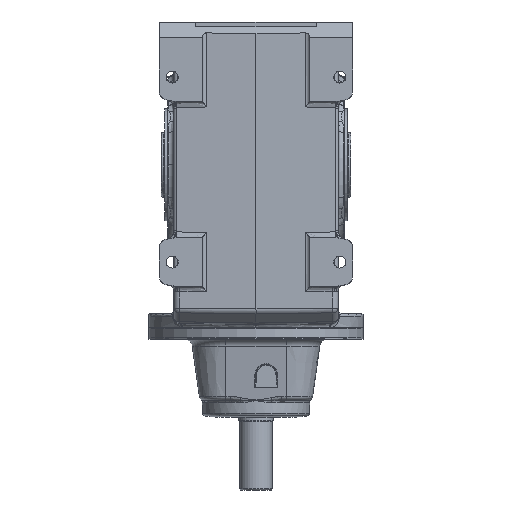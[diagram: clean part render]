
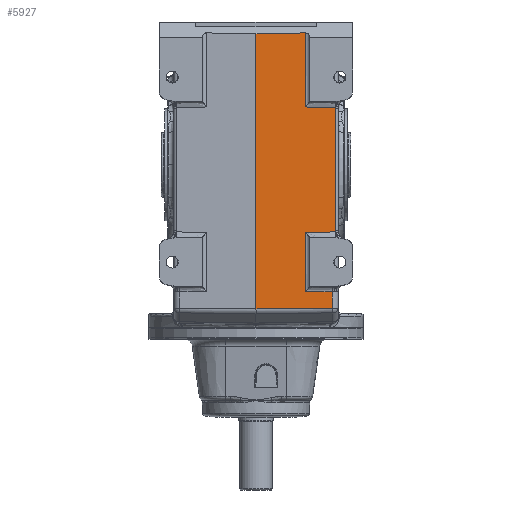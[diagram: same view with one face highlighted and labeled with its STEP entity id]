
A CAD part, front view. The second image highlights one B-rep face of the part: STEP entity #5927.
In plain terms, the highlighted planar face has unit normal (0.018, -1, 0) as drawn and (0, -1, 0.017) by its records, which use the part's own axes.
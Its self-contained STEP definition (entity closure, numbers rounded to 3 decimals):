
#281 = CARTESIAN_POINT ( 'NONE',  ( 78.081, -211.05, 92.636 ) ) ;
#1533 = AXIS2_PLACEMENT_3D ( 'NONE', #16848, #8998, #77013 ) ;
#1664 = VERTEX_POINT ( 'NONE', #95282 ) ;
#1910 = VECTOR ( 'NONE', #58422, 1000. ) ;
#3039 = CARTESIAN_POINT ( 'NONE',  ( 167.581, -212.667, 0. ) ) ;
#4416 = CARTESIAN_POINT ( 'NONE',  ( -160., -211.665, 57.413 ) ) ;
#4873 = ORIENTED_EDGE ( 'NONE', *, *, #46569, .F. ) ;
#5186 = CARTESIAN_POINT ( 'NONE',  ( 166.879, -211.12, 88.622 ) ) ;
#5461 = ORIENTED_EDGE ( 'NONE', *, *, #34428, .T. ) ;
#5652 = CARTESIAN_POINT ( 'NONE',  ( 166.804, -210.955, 98.088 ) ) ;
#5927 = ADVANCED_FACE ( 'NONE', ( #9481 ), #62697, .T. ) ;
#7214 = CARTESIAN_POINT ( 'NONE',  ( 76.611, -211.051, 92.552 ) ) ;
#8332 = DIRECTION ( 'NONE',  ( -1., 0., 0. ) ) ;
#8559 = EDGE_CURVE ( 'NONE', #26102, #67056, #45987, .T. ) ;
#8998 = DIRECTION ( 'NONE',  ( 0., -1., 0.017 ) ) ;
#9481 = FACE_OUTER_BOUND ( 'NONE', #84754, .T. ) ;
#9614 = VERTEX_POINT ( 'NONE', #85783 ) ;
#11019 = CARTESIAN_POINT ( 'NONE',  ( 147.595, -211.484, 67.745 ) ) ;
#11023 = DIRECTION ( 'NONE',  ( 1., 0., 0. ) ) ;
#12621 = B_SPLINE_CURVE_WITH_KNOTS ( 'NONE', 3,
 ( #44151, #36253, #31191, #68665 ),
 .UNSPECIFIED., .F., .F.,
 ( 4, 4 ),
 ( 0., 1. ),
 .UNSPECIFIED. ) ;
#14441 = CARTESIAN_POINT ( 'NONE',  ( -153.335, -211.665, 57.413 ) ) ;
#15211 = CARTESIAN_POINT ( 'NONE',  ( -160., -211.051, 92.552 ) ) ;
#16848 = CARTESIAN_POINT ( 'NONE',  ( -160., -211., 95.5 ) ) ;
#17679 = EDGE_CURVE ( 'NONE', #1664, #77894, #63121, .T. ) ;
#17922 = CARTESIAN_POINT ( 'NONE',  ( -160., -211.12, 88.622 ) ) ;
#18347 = VERTEX_POINT ( 'NONE', #3039 ) ;
#18399 = CARTESIAN_POINT ( 'NONE',  ( 147.557, -211.665, 57.413 ) ) ;
#19502 = VECTOR ( 'NONE', #8332, 1000. ) ;
#21701 = VECTOR ( 'NONE', #11023, 1000. ) ;
#25333 = ORIENTED_EDGE ( 'NONE', *, *, #56470, .T. ) ;
#26102 = VERTEX_POINT ( 'NONE', #89022 ) ;
#26290 = LINE ( 'NONE', #17922, #21701 ) ;
#27633 = B_SPLINE_CURVE_WITH_KNOTS ( 'NONE', 3,
 ( #51393, #90850, #89367, #67154 ),
 .UNSPECIFIED., .F., .F.,
 ( 4, 4 ),
 ( 0., 1. ),
 .UNSPECIFIED. ) ;
#29309 = CARTESIAN_POINT ( 'NONE',  ( -152.333, -212.667, 0. ) ) ;
#29596 = ORIENTED_EDGE ( 'NONE', *, *, #58925, .T. ) ;
#29835 = CARTESIAN_POINT ( 'NONE',  ( 76.611, -211.051, 92.552 ) ) ;
#29870 = CARTESIAN_POINT ( 'NONE',  ( 77.594, -211.051, 92.58 ) ) ;
#30632 = CARTESIAN_POINT ( 'NONE',  ( 78.203, -211.665, 57.413 ) ) ;
#31168 = EDGE_CURVE ( 'NONE', #39765, #18347, #81095, .T. ) ;
#31191 = CARTESIAN_POINT ( 'NONE',  ( -67.153, -211.462, 69.05 ) ) ;
#32053 = VECTOR ( 'NONE', #74121, 1000. ) ;
#34428 = EDGE_CURVE ( 'NONE', #48786, #26102, #88956, .T. ) ;
#34481 = DIRECTION ( 'NONE',  ( 1., 0., 0. ) ) ;
#35153 = EDGE_CURVE ( 'NONE', #83979, #40392, #90698, .T. ) ;
#35449 = CARTESIAN_POINT ( 'NONE',  ( -160., -212.667, 0. ) ) ;
#35830 = ORIENTED_EDGE ( 'NONE', *, *, #52874, .F. ) ;
#36253 = CARTESIAN_POINT ( 'NONE',  ( -67.113, -211.257, 80.791 ) ) ;
#37534 = CARTESIAN_POINT ( 'NONE',  ( 78.081, -211.05, 92.636 ) ) ;
#37558 = VERTEX_POINT ( 'NONE', #93835 ) ;
#38737 = ORIENTED_EDGE ( 'NONE', *, *, #17679, .T. ) ;
#38985 = CARTESIAN_POINT ( 'NONE',  ( 78.113, -211.257, 80.791 ) ) ;
#39765 = VERTEX_POINT ( 'NONE', #5186 ) ;
#40392 = VERTEX_POINT ( 'NONE', #46215 ) ;
#44151 = CARTESIAN_POINT ( 'NONE',  ( -67.081, -211.05, 92.636 ) ) ;
#45987 = LINE ( 'NONE', #14441, #72480 ) ;
#46215 = CARTESIAN_POINT ( 'NONE',  ( -65.611, -211.051, 92.552 ) ) ;
#46569 = EDGE_CURVE ( 'NONE', #94613, #39765, #26290, .T. ) ;
#48502 = CARTESIAN_POINT ( 'NONE',  ( 147.647, -211.12, 88.622 ) ) ;
#48786 = VERTEX_POINT ( 'NONE', #93584 ) ;
#50985 = CARTESIAN_POINT ( 'NONE',  ( -160., -211.665, 57.413 ) ) ;
#51331 = EDGE_CURVE ( 'NONE', #67056, #18347, #58140, .T. ) ;
#51393 = CARTESIAN_POINT ( 'NONE',  ( -67.081, -211.05, 92.636 ) ) ;
#52874 = EDGE_CURVE ( 'NONE', #83979, #9614, #72768, .T. ) ;
#54774 = CARTESIAN_POINT ( 'NONE',  ( 78.153, -211.462, 69.05 ) ) ;
#56470 = EDGE_CURVE ( 'NONE', #77894, #9614, #78900, .T. ) ;
#58140 = LINE ( 'NONE', #35449, #88150 ) ;
#58422 = DIRECTION ( 'NONE',  ( 0.008, -0.017, -1. ) ) ;
#58925 = EDGE_CURVE ( 'NONE', #94613, #1664, #79748, .T. ) ;
#60964 = EDGE_CURVE ( 'NONE', #37558, #48786, #12621, .T. ) ;
#61063 = ORIENTED_EDGE ( 'NONE', *, *, #31168, .F. ) ;
#61896 = ORIENTED_EDGE ( 'NONE', *, *, #35153, .T. ) ;
#62653 = ORIENTED_EDGE ( 'NONE', *, *, #8559, .T. ) ;
#62697 = PLANE ( 'NONE',  #1533 ) ;
#63121 = LINE ( 'NONE', #4416, #69030 ) ;
#66538 = ORIENTED_EDGE ( 'NONE', *, *, #72296, .F. ) ;
#67056 = VERTEX_POINT ( 'NONE', #29309 ) ;
#67154 = CARTESIAN_POINT ( 'NONE',  ( -65.611, -211.051, 92.552 ) ) ;
#68665 = CARTESIAN_POINT ( 'NONE',  ( -67.203, -211.665, 57.413 ) ) ;
#69030 = VECTOR ( 'NONE', #87755, 1000. ) ;
#72296 = EDGE_CURVE ( 'NONE', #37558, #40392, #27633, .T. ) ;
#72480 = VECTOR ( 'NONE', #82974, 1000. ) ;
#72768 = B_SPLINE_CURVE_WITH_KNOTS ( 'NONE', 3,
 ( #7214, #97461, #29870, #281 ),
 .UNSPECIFIED., .F., .F.,
 ( 4, 4 ),
 ( 0., 1. ),
 .UNSPECIFIED. ) ;
#74121 = DIRECTION ( 'NONE',  ( -1., 0., 0. ) ) ;
#77013 = DIRECTION ( 'NONE',  ( 0., -0.017, -1. ) ) ;
#77894 = VERTEX_POINT ( 'NONE', #95636 ) ;
#78900 = B_SPLINE_CURVE_WITH_KNOTS ( 'NONE', 3,
 ( #30632, #54774, #38985, #37534 ),
 .UNSPECIFIED., .F., .F.,
 ( 4, 4 ),
 ( 0., 1. ),
 .UNSPECIFIED. ) ;
#79748 = B_SPLINE_CURVE_WITH_KNOTS ( 'NONE', 3,
 ( #48502, #84027, #11019, #18399 ),
 .UNSPECIFIED., .F., .F.,
 ( 4, 4 ),
 ( 0., 1. ),
 .UNSPECIFIED. ) ;
#80289 = ORIENTED_EDGE ( 'NONE', *, *, #51331, .T. ) ;
#81095 = LINE ( 'NONE', #5652, #1910 ) ;
#81356 = CARTESIAN_POINT ( 'NONE',  ( 147.647, -211.12, 88.622 ) ) ;
#82974 = DIRECTION ( 'NONE',  ( 0.017, -0.017, -1. ) ) ;
#83979 = VERTEX_POINT ( 'NONE', #29835 ) ;
#84027 = CARTESIAN_POINT ( 'NONE',  ( 147.625, -211.303, 78.148 ) ) ;
#84754 = EDGE_LOOP ( 'NONE', ( #62653, #80289, #61063, #4873, #29596, #38737, #25333, #35830, #61896, #66538, #88865, #5461 ) ) ;
#85783 = CARTESIAN_POINT ( 'NONE',  ( 78.081, -211.05, 92.636 ) ) ;
#87755 = DIRECTION ( 'NONE',  ( -1., 0., 0. ) ) ;
#88150 = VECTOR ( 'NONE', #34481, 1000. ) ;
#88865 = ORIENTED_EDGE ( 'NONE', *, *, #60964, .T. ) ;
#88956 = LINE ( 'NONE', #50985, #32053 ) ;
#89022 = CARTESIAN_POINT ( 'NONE',  ( -153.335, -211.665, 57.413 ) ) ;
#89367 = CARTESIAN_POINT ( 'NONE',  ( -66.103, -211.051, 92.552 ) ) ;
#90698 = LINE ( 'NONE', #15211, #19502 ) ;
#90850 = CARTESIAN_POINT ( 'NONE',  ( -66.594, -211.051, 92.58 ) ) ;
#93584 = CARTESIAN_POINT ( 'NONE',  ( -67.203, -211.665, 57.413 ) ) ;
#93835 = CARTESIAN_POINT ( 'NONE',  ( -67.081, -211.05, 92.636 ) ) ;
#94613 = VERTEX_POINT ( 'NONE', #81356 ) ;
#95282 = CARTESIAN_POINT ( 'NONE',  ( 147.557, -211.665, 57.413 ) ) ;
#95636 = CARTESIAN_POINT ( 'NONE',  ( 78.203, -211.665, 57.413 ) ) ;
#97461 = CARTESIAN_POINT ( 'NONE',  ( 77.103, -211.051, 92.552 ) ) ;
